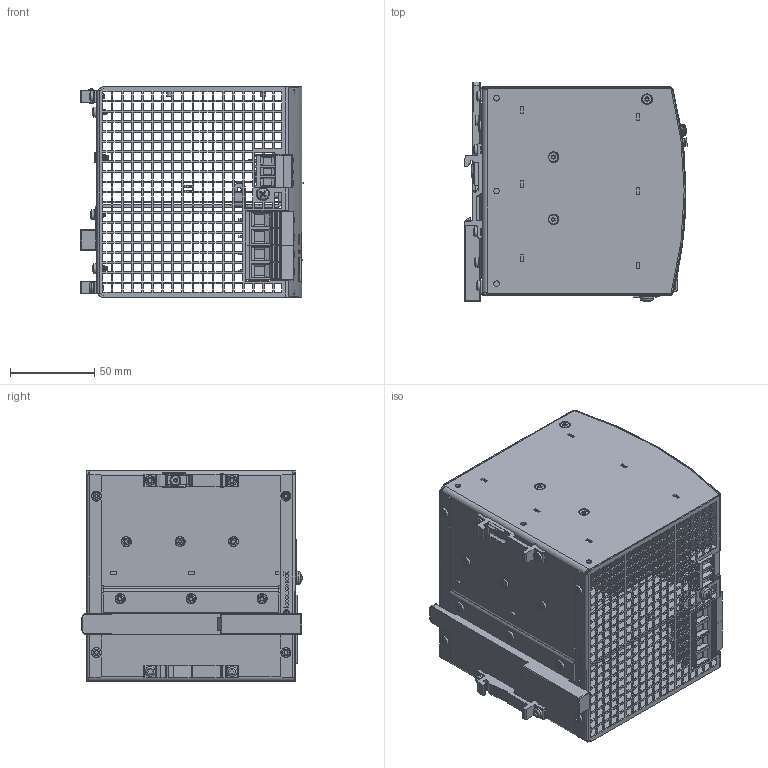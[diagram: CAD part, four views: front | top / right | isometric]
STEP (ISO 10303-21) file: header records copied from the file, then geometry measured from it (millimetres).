
FILE_DESCRIPTION(/* description */ (''),/* implementation_level */ '2;1');
FILE_NAME(/* name */ 'C:\SW-temp\384\md3_QS40_241_C2.stp',/* time_stamp */ '2021-08-23T23:54:31+02:00',/* author */ ('heinrij'),/* organization */ (''),/* preprocessor_version */ 'ST-DEVELOPER v18.1',/* originating_system */ 'Autodesk Inventor 2020',/* authorisation */ '');
FILE_SCHEMA (('AUTOMOTIVE_DESIGN { 1 0 10303 214 3 1 1 }'));
Products named in the file (23): 384.00; EW-384.992.00; EW-384.991.00; EW-353.900.00; EW-360.910.00; ED-T3006_7500-15; ED-T3006_7500-10; EA-348.920.00; ED-B40_127-10; ED-B40_127-A2; ED-4008_7985-10; ED-A32_6797-10; HOUSING BODY 384.00; MKT_SLIDER; MKT_T HOLDER1; MKT_SCREW 3x6; HOUSING BODY 374.10; XT-LP3BK-D1; XT-LP2BK-D5; MKT_LED GN; MKT_LED RD; FRONTFOIL 384.00; XA-KS_G-A9
Assembly tree (43 placements, depth 3):
  384.00
    EW-384.992.00
    EW-384.991.00
    EW-353.900.00
    EW-360.910.00
    ED-T3006_7500-10  x12
    ED-T3006_7500-15  x4
    ED-4008_7985-10  x2
    EA-348.920.00
    ED-B40_127-10
    ED-B40_127-A2
    ED-A32_6797-10  x5
    HOUSING BODY 384.00
      MKT_SCREW 3x6  x2
      MKT_SLIDER
      MKT_T HOLDER1
      HOUSING BODY 374.10
    XT-LP3BK-D1
    XT-LP2BK-D5  x2
    MKT_LED GN
    MKT_LED RD
    FRONTFOIL 384.00
    XA-KS_G-A9
Bounding box: 132.46 x 130.77 x 125 mm (x, y, z)
Volume: 134922.7 mm3; surface area: 217582.7 mm2
Topology: 42 solids, 43 shells, 6297 faces, 18062 edges, 12016 vertices
Faces by surface type: plane 4516, cylinder 959, bspline 644, cone 93, torus 71, sphere 14
Full cylindrical faces by diameter (mm): 0.3 x3, 2.18 x12, 2.45 x7, 2.5 x96, 2.696 x1, 3 x9, 3.1 x5, 3.145 x1, 3.2 x13, 3.4 x4, 3.5 x2, 3.621 x2, 4 x2, 4.355 x1, 4.5 x3, 4.6 x4, 4.75 x1, 5.05 x3, 5.2 x3, 5.6 x4, 6 x14, 7 x4, 7.35 x4
Entity records: 204686 total; most frequent: CARTESIAN_POINT 61685, ORIENTED_EDGE 30922, DIRECTION 25527, EDGE_CURVE 15461, LINE 12517, VECTOR 12517, VERTEX_POINT 10303, EDGE_LOOP 7012
